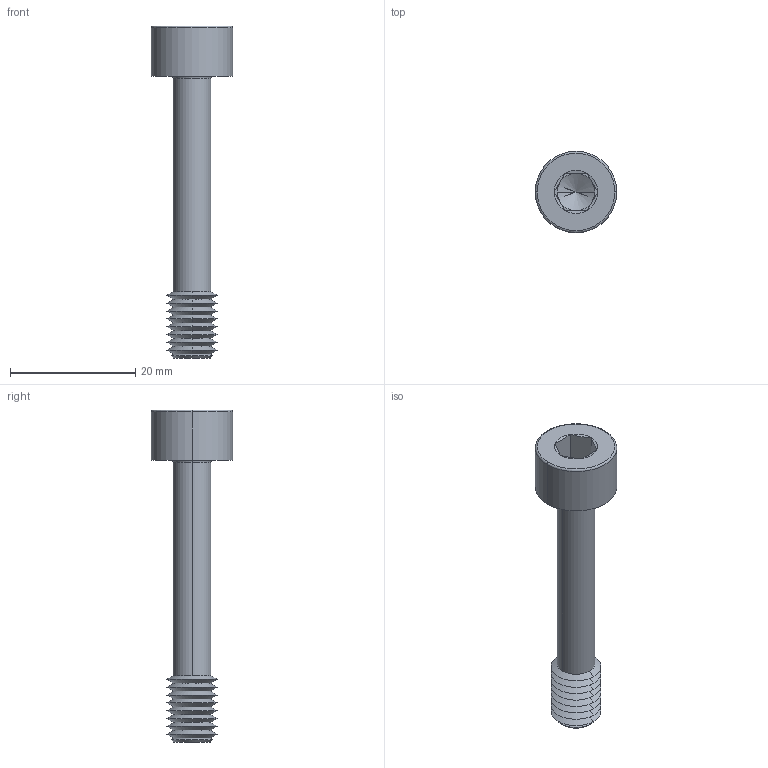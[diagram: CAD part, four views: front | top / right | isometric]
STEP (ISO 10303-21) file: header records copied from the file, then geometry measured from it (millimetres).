
FILE_DESCRIPTION (( 'STEP AP203' ), '1' );
FILE_NAME ('P0154.080-045-BL.step', '2024-06-17T11:32:20', ( '' ), ( '' ), 'SwSTEP 2.0', 'SolidWorks 2019', '' );
FILE_SCHEMA (( 'CONFIG_CONTROL_DESIGN' ));
Length unit declared in the file: millimetre
Products named in the file (1): P0154.080-045-BL
Bounding box: 13 x 13 x 53 mm (x, y, z)
Volume: 2227.7 mm3; surface area: 1812.3 mm2
Topology: 1 solids, 1 shells, 67 faces, 136 edges, 71 vertices
Faces by surface type: cone 44, plane 15, torus 4, cylinder 4
Entity records: 1787 total; most frequent: DIRECTION 332, CARTESIAN_POINT 299, ORIENTED_EDGE 268, AXIS2_PLACEMENT_3D 136, EDGE_CURVE 134, VERTEX_POINT 71, EDGE_LOOP 69, CIRCLE 68
